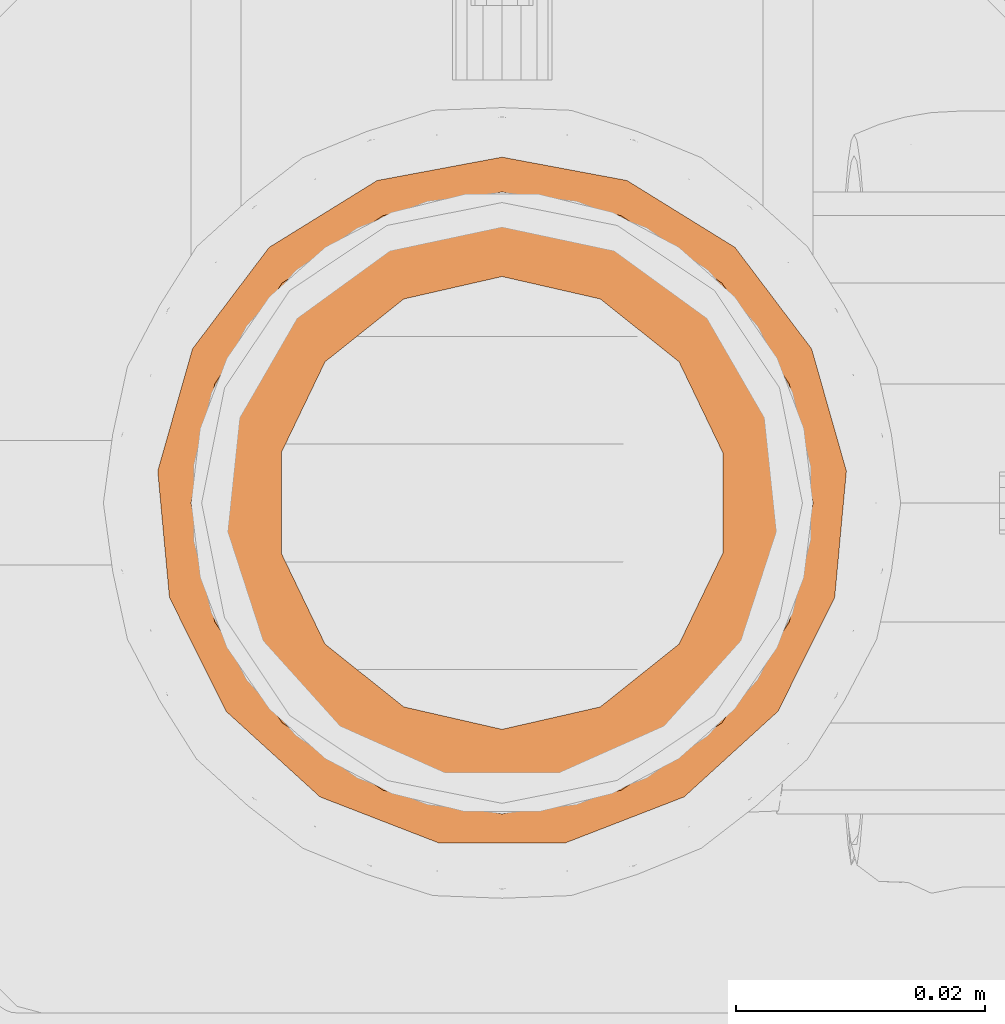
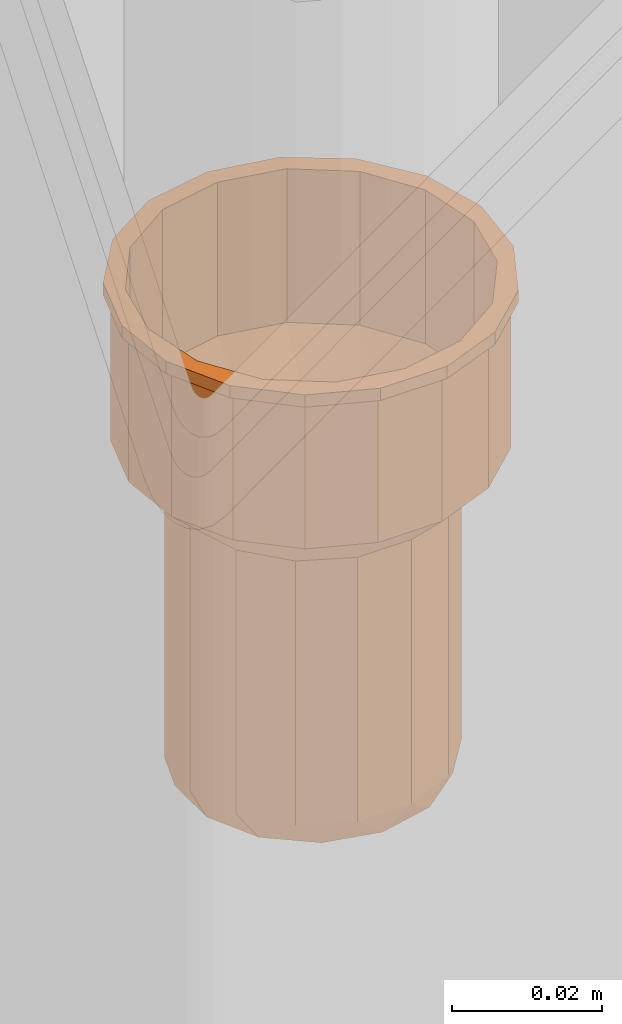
# One storey, part 86 of 162: 1 proxy.
"""IFC2X3 building model written with IfcOpenShell, lengths in millimetres."""

from ifc_helpers import new_model, entity, si_unit, converted_unit, origin_with_axes, place, context, project, spatial, faceted_brep, material, element, save


model = new_model("IFC2X3")

# Units and contexts
model_context = context("Model", 3, precision=1e-09, world=origin_with_axes())
ifc_project = project(units=[si_unit("LENGTHUNIT", "METRE", prefix="MILLI"), si_unit("AREAUNIT", "SQUARE_METRE"), si_unit("VOLUMEUNIT", "CUBIC_METRE"), converted_unit("PLANEANGLEUNIT", "DEGREE", entity("IfcPlaneAngleMeasure", 0.01745329), si_unit("PLANEANGLEUNIT", "RADIAN"), dimensions=[0, 0, 0, 0, 0, 0, 0])], contexts=[model_context])

# Site, building, storey
site_placement = place(None, origin_with_axes())
site = spatial("IfcSite", under=ifc_project, at=site_placement, Name="Hermannstra?e 1a, 60318 Frankfurt", CompositionType="ELEMENT")
building_placement = place(site_placement, origin_with_axes())
building = spatial("IfcBuilding", under=site, at=building_placement, Name="Struktur 1", CompositionType="ELEMENT")
storey_placement = place(building_placement, origin_with_axes())
storey = spatial("IfcBuildingStorey", under=building, at=storey_placement, Name="Default Storey", CompositionType="ELEMENT", Elevation=0.0)

# Proxy
ifc_material = material(Name="Kunststoff")
proxy_placement = place(None, origin_with_axes())
element("IfcBuildingElementProxy", 1, at=proxy_placement, inside=storey, material=ifc_material, ObjectType="-", context=model_context, shape_type="Brep", body=[
    faceted_brep([(5465.038594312, 1547.783805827, 15034.544584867), (5458.446464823, 1543.991989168, 15038.044584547), (5465.17463005, 1548.88028734, 15038.044584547), (5458.405951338, 1542.494449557, 15034.544584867), (5458.446472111, 1543.991982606, 15080.999001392), (5465.174634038, 1548.880278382, 15080.999001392), (5473.30936482, 1549.671555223, 15034.544584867), (5481.580135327, 1547.783805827, 15034.544584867), (5488.212778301, 1542.494449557, 15034.544584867), (5491.893617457, 1534.851108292, 15034.544584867), (5491.893617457, 1526.36763951, 15034.544584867), (5488.212778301, 1518.724298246, 15034.544584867), (5481.580135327, 1513.434941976, 15034.544584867), (5473.30936482, 1511.54719258, 15034.544584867), (5465.038594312, 1513.434941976, 15034.544584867), (5458.405951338, 1518.724298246, 15034.544584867), (5454.725112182, 1526.36763951, 15034.544584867), (5454.725112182, 1534.851108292, 15034.544584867), (5473.30936482, 1548.809369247, 15034.544585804), (5465.412682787, 1547.007003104, 15034.544585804), (5459.080035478, 1541.956885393, 15034.544585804), (5455.565681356, 1534.659253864, 15034.544585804), (5455.565681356, 1526.559493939, 15034.544585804), (5459.080035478, 1519.26186241, 15034.544585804), (5465.412682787, 1514.211744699, 15034.544585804), (5473.30936482, 1512.409378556, 15034.544585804), (5481.206046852, 1514.211744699, 15034.544585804), (5487.538694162, 1519.26186241, 15034.544585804), (5491.053048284, 1526.559493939, 15034.544585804), (5491.053048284, 1534.659253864, 15034.544585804), (5487.538694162, 1541.956885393, 15034.544585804), (5481.206046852, 1547.007003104, 15034.544585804), (5454.288230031, 1536.789715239, 15038.044584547), (5465.412682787, 1547.007003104, 15081.744585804), (5459.080035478, 1541.956885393, 15081.744585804), (5473.30936482, 1550.609368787, 15080.999001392), (5473.30936482, 1550.609378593, 15038.044584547), (5455.254318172, 1550.41481661, 15087.798996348), (5463.628086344, 1555.599634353, 15087.798996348), (5473.30936482, 1548.809369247, 15081.744585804), (5463.742277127, 1553.706366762, 15088.544580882), (5454.288239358, 1536.789712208, 15080.999001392), (5455.25432157, 1550.414812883, 15111.544585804), (5463.628088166, 1555.599629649, 15111.544585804), (5455.631691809, 1548.287046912, 15088.544580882), (5463.742277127, 1553.706366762, 15113.544585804), (5473.30936482, 1555.609378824, 15088.544580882), (5473.30936482, 1555.609378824, 15113.544585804), (5453.418922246, 1528.518804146, 15038.044584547), (5473.30936482, 1557.409373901, 15111.544585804), (5473.30936482, 1557.409378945, 15087.798996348), (5473.30936482, 1558.409366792, 15111.544585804), (5483.351880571, 1556.53209525, 15111.544585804), (5492.038098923, 1551.153816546, 15111.544585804), (5498.194897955, 1543.000897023, 15111.544585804), (5500.990767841, 1533.174433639, 15111.544585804), (5500.048110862, 1523.001544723, 15111.544585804), (5495.494238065, 1513.856135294, 15111.544585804), (5487.944175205, 1506.973343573, 15111.544585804), (5478.417600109, 1503.282728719, 15111.544585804), (5468.201129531, 1503.282728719, 15111.544585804), (5458.674554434, 1506.973343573, 15111.544585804), (5451.124491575, 1513.856135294, 15111.544585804), (5446.570618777, 1523.001544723, 15111.544585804), (5445.627961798, 1533.174433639, 15111.544585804), (5448.423831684, 1543.000897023, 15111.544585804), (5454.580630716, 1551.153816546, 15111.544585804), (5463.266849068, 1556.53209525, 15111.544585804), (5482.990641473, 1555.599629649, 15111.544585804), (5449.318988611, 1542.555161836, 15111.544585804), (5446.623688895, 1533.082165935, 15111.544585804), (5447.532437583, 1523.275205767, 15111.544585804), (5451.922503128, 1514.458765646, 15111.544585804), (5459.200982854, 1507.823554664, 15111.544585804), (5468.384877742, 1504.26569483, 15111.544585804), (5478.233851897, 1504.26569483, 15111.544585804), (5487.417746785, 1507.823554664, 15111.544585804), (5494.696226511, 1514.458765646, 15111.544585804), (5499.086292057, 1523.275205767, 15111.544585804), (5499.995040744, 1533.082165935, 15111.544585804), (5497.299741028, 1542.555161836, 15111.544585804), (5491.364408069, 1550.414812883, 15111.544585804), (5481.444099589, 1548.88028734, 15038.044584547), (5492.038098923, 1551.153816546, 15113.544585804), (5483.351880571, 1556.53209525, 15113.544585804), (5473.30936482, 1558.409366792, 15113.544585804), (5463.266849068, 1556.53209525, 15113.544585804), (5454.580630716, 1551.153816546, 15113.544585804), (5448.423831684, 1543.000897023, 15113.544585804), (5445.627961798, 1533.174433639, 15113.544585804), (5446.570618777, 1523.001544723, 15113.544585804), (5451.124491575, 1513.856135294, 15113.544585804), (5458.674554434, 1506.973343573, 15113.544585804), (5468.201129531, 1503.282728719, 15113.544585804), (5478.417600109, 1503.282728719, 15113.544585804), (5487.944175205, 1506.973343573, 15113.544585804), (5495.494238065, 1513.856135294, 15113.544585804), (5500.048110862, 1523.001544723, 15113.544585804), (5500.990767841, 1533.174433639, 15113.544585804), (5498.194897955, 1543.000897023, 15113.544585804), (5482.876452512, 1553.706366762, 15113.544585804), (5490.98703783, 1548.287046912, 15113.544585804), (5496.40635768, 1540.176461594, 15113.544585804), (5498.309369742, 1530.609373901, 15113.544585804), (5496.40635768, 1521.042286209, 15113.544585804), (5490.98703783, 1512.931700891, 15113.544585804), (5482.876452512, 1507.512381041, 15113.544585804), (5473.30936482, 1505.609368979, 15113.544585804), (5463.742277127, 1507.512381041, 15113.544585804), (5455.631691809, 1512.931700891, 15113.544585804), (5450.212371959, 1521.042286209, 15113.544585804), (5448.309359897, 1530.609373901, 15113.544585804), (5450.212371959, 1540.176461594, 15113.544585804), (5455.631691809, 1548.287046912, 15113.544585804), (5449.318984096, 1542.555164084, 15087.798996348), (5455.565681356, 1534.659253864, 15081.744585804), (5453.418931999, 1528.518805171, 15080.999001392), (5481.444095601, 1548.880278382, 15080.999001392), (5481.206046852, 1547.007003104, 15081.744585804), (5482.876452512, 1553.706366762, 15088.544580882), (5450.212371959, 1540.176461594, 15088.544580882), (5455.988852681, 1520.609371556, 15038.044584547), (5482.990643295, 1555.599634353, 15087.798996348), (5488.172264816, 1543.991989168, 15038.044584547), (5446.623683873, 1533.0821664, 15087.798996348), (5455.565681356, 1526.559493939, 15081.744585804), (5455.988861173, 1520.609376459, 15080.999001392), (5488.172257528, 1543.991982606, 15080.999001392), (5487.538694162, 1541.956885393, 15081.744585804), (5490.98703783, 1548.287046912, 15088.544580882), (5448.309359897, 1530.609373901, 15088.544580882), (5461.553657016, 1514.429030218, 15038.044584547), (5447.532432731, 1523.275204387, 15087.798996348), (5492.330499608, 1536.789715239, 15038.044584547), (5491.364411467, 1550.41481661, 15087.798996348), (5492.330490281, 1536.789712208, 15080.999001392), (5459.080035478, 1519.26186241, 15081.744585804), (5461.55366278, 1514.429038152, 15080.999001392), (5497.299745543, 1542.555164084, 15087.798996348), (5491.053048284, 1534.659253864, 15081.744585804), (5496.40635768, 1540.176461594, 15088.544580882), (5450.212371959, 1521.042286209, 15088.544580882), (5469.151130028, 1511.046417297, 15038.044584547), (5451.922499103, 1514.458762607, 15087.798996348), (5493.199807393, 1528.518804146, 15038.044584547), (5493.19979764, 1528.518805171, 15080.999001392), (5499.995045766, 1533.0821664, 15087.798996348), (5465.412682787, 1514.211744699, 15081.744585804), (5469.151132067, 1511.04642689, 15080.999001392), (5477.467599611, 1511.046417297, 15038.044584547), (5485.065072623, 1514.429030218, 15038.044584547), (5490.629876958, 1520.609371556, 15038.044584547), (5491.053048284, 1526.559493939, 15081.744585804), (5498.309369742, 1530.609373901, 15088.544580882), (5455.631691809, 1512.931700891, 15088.544580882), (5459.200980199, 1507.823550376, 15087.798996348), (5490.629868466, 1520.609376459, 15080.999001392), (5499.086296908, 1523.275204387, 15087.798996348), (5487.538694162, 1519.26186241, 15081.744585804), (5481.206046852, 1514.211744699, 15081.744585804), (5473.30936482, 1512.409378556, 15081.744585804), (5477.467597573, 1511.04642689, 15080.999001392), (5485.065066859, 1514.429038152, 15080.999001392), (5496.40635768, 1521.042286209, 15088.544580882), (5463.742277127, 1507.512381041, 15088.544580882), (5468.384876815, 1504.265689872, 15087.798996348), (5494.696230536, 1514.458762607, 15087.798996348), (5490.98703783, 1512.931700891, 15088.544580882), (5482.876452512, 1507.512381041, 15088.544580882), (5478.233852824, 1504.265689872, 15087.798996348), (5487.41774944, 1507.823550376, 15087.798996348), (5473.30936482, 1505.609368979, 15088.544580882)], [[[0, 1, 2]], [[0, 3, 1]], [[2, 1, 4, 5]], [[2, 6, 0]], [[0, 6, 7, 8, 9, 10, 11, 12, 13, 14, 15, 16, 17, 3], [18, 19, 20, 21, 22, 23, 24, 25, 26, 27, 28, 29, 30, 31]], [[3, 32, 1]], [[19, 33, 34, 20]], [[2, 5, 35, 36]], [[5, 37, 38]], [[2, 36, 6]], [[33, 19, 18, 39]], [[40, 33, 39]], [[1, 32, 41, 4]], [[5, 4, 37]], [[38, 37, 42, 43]], [[3, 17, 32]], [[40, 44, 33]], [[45, 40, 46, 47]], [[17, 48, 32]], [[38, 35, 5]], [[43, 49, 50, 38]], [[51, 52, 53, 54, 55, 56, 57, 58, 59, 60, 61, 62, 63, 64, 65, 66, 67], [68, 49, 43, 42, 69, 70, 71, 72, 73, 74, 75, 76, 77, 78, 79, 80, 81]], [[36, 82, 6]], [[46, 40, 39]], [[83, 84, 85, 86, 87, 88, 89, 90, 91, 92, 93, 94, 95, 96, 97, 98, 99], [47, 100, 101, 102, 103, 104, 105, 106, 107, 108, 109, 110, 111, 112, 113, 45]], [[4, 114, 37]], [[86, 85, 51, 67]], [[20, 34, 115, 21]], [[44, 34, 33]], [[40, 45, 113, 44]], [[17, 16, 48]], [[32, 48, 116, 41]], [[36, 35, 117, 82]], [[38, 50, 35]], [[7, 6, 82]], [[39, 18, 31, 118]], [[46, 39, 119]], [[47, 46, 119, 100]], [[4, 41, 114]], [[37, 114, 69, 42]], [[67, 66, 87, 86]], [[44, 120, 34]], [[16, 121, 48]], [[50, 122, 35]], [[49, 68, 122, 50]], [[85, 84, 52, 51]], [[7, 82, 123]], [[119, 39, 118]], [[41, 124, 114]], [[21, 115, 125, 22]], [[120, 115, 34]], [[44, 113, 112, 120]], [[16, 15, 121]], [[48, 121, 126, 116]], [[41, 116, 124]], [[117, 127, 123, 82]], [[117, 35, 122]], [[8, 7, 123]], [[118, 31, 30, 128]], [[129, 119, 118]], [[100, 119, 129, 101]], [[114, 124, 70, 69]], [[66, 65, 88, 87]], [[120, 130, 115]], [[15, 131, 121]], [[116, 132, 124]], [[8, 123, 133]], [[127, 117, 134]], [[127, 135, 133, 123]], [[117, 122, 134]], [[68, 81, 134, 122]], [[84, 83, 53, 52]], [[129, 118, 128]], [[22, 125, 136, 23]], [[130, 125, 115]], [[120, 112, 111, 130]], [[15, 14, 131]], [[121, 131, 137, 126]], [[116, 126, 132]], [[124, 132, 71, 70]], [[9, 8, 133]], [[127, 134, 138]], [[135, 127, 138]], [[128, 30, 29, 139]], [[140, 129, 128]], [[101, 129, 140, 102]], [[65, 64, 89, 88]], [[130, 141, 125]], [[14, 142, 131]], [[126, 143, 132]], [[9, 133, 144]], [[135, 145, 144, 133]], [[138, 134, 81, 80]], [[135, 138, 146]], [[83, 99, 54, 53]], [[140, 128, 139]], [[23, 136, 147, 24]], [[141, 136, 125]], [[130, 111, 110, 141]], [[14, 13, 142]], [[131, 142, 148, 137]], [[126, 137, 143]], [[132, 143, 72, 71]], [[13, 12, 149]], [[12, 11, 150]], [[11, 10, 151]], [[10, 9, 144]], [[145, 135, 146]], [[80, 79, 146, 138]], [[139, 29, 28, 152]], [[153, 140, 139]], [[102, 140, 153, 103]], [[64, 63, 90, 89]], [[141, 154, 136]], [[13, 149, 142]], [[137, 155, 143]], [[12, 150, 149]], [[11, 151, 150]], [[10, 144, 151]], [[145, 156, 151, 144]], [[145, 146, 157]], [[79, 78, 157, 146]], [[99, 98, 55, 54]], [[153, 139, 152]], [[27, 158, 152, 28]], [[26, 159, 158, 27]], [[25, 160, 159, 26]], [[24, 147, 160, 25]], [[154, 147, 136]], [[141, 110, 109, 154]], [[142, 149, 161, 148]], [[137, 148, 155]], [[143, 155, 73, 72]], [[149, 150, 162, 161]], [[150, 151, 156, 162]], [[156, 145, 157]], [[163, 153, 152]], [[103, 153, 163, 104]], [[63, 62, 91, 90]], [[154, 164, 147]], [[148, 165, 155]], [[156, 157, 166]], [[78, 77, 166, 157]], [[98, 97, 56, 55]], [[163, 152, 158]], [[167, 158, 159]], [[168, 159, 160]], [[164, 160, 147]], [[154, 109, 108, 164]], [[148, 161, 169, 165]], [[155, 165, 74, 73]], [[161, 162, 170]], [[162, 156, 166]], [[167, 163, 158]], [[104, 163, 167, 105]], [[62, 61, 92, 91]], [[168, 167, 159]], [[171, 168, 160]], [[164, 171, 160]], [[161, 170, 169]], [[162, 166, 170]], [[77, 76, 170, 166]], [[97, 96, 57, 56]], [[168, 106, 105, 167]], [[171, 107, 106, 168]], [[164, 108, 107, 171]], [[165, 169, 75, 74]], [[169, 170, 76, 75]], [[61, 60, 93, 92]], [[96, 95, 58, 57]], [[60, 59, 94, 93]], [[95, 94, 59, 58]]]),
])

save(model, "model.ifc")
